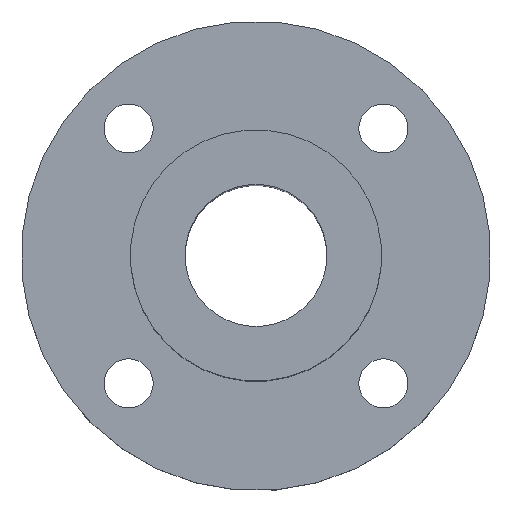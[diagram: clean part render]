
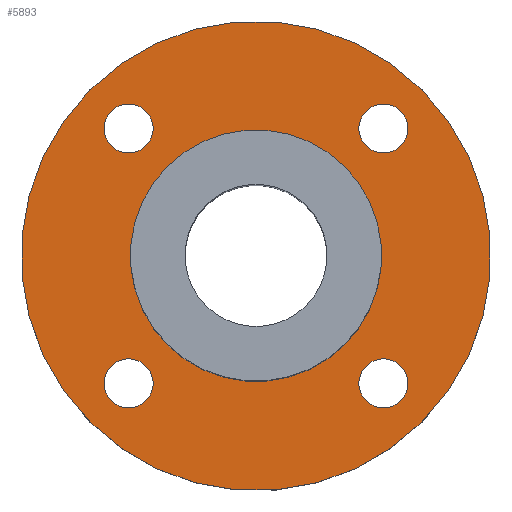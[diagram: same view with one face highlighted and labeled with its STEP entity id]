
A CAD part, top view. The second image highlights one B-rep face of the part: STEP entity #5893.
In plain terms, the highlighted planar face has unit normal (0, 0, 1).
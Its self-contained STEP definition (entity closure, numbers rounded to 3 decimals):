
#113=CIRCLE('',#6263,11.5);
#117=CIRCLE('',#6271,21.5);
#118=CIRCLE('',#6273,2.25);
#119=CIRCLE('',#6274,2.25);
#120=CIRCLE('',#6275,2.25);
#121=CIRCLE('',#6276,2.25);
#532=ORIENTED_EDGE('',*,*,#2228,.F.);
#533=ORIENTED_EDGE('',*,*,#2229,.F.);
#534=ORIENTED_EDGE('',*,*,#2230,.F.);
#535=ORIENTED_EDGE('',*,*,#2231,.F.);
#536=ORIENTED_EDGE('',*,*,#2223,.T.);
#537=ORIENTED_EDGE('',*,*,#2227,.T.);
#2223=EDGE_CURVE('',#3074,#3074,#113,.F.);
#2227=EDGE_CURVE('',#3078,#3078,#117,.T.);
#2228=EDGE_CURVE('',#3079,#3079,#118,.T.);
#2229=EDGE_CURVE('',#3080,#3080,#119,.T.);
#2230=EDGE_CURVE('',#3081,#3081,#120,.T.);
#2231=EDGE_CURVE('',#3082,#3082,#121,.T.);
#3074=VERTEX_POINT('',#9303);
#3078=VERTEX_POINT('',#9315);
#3079=VERTEX_POINT('',#9318);
#3080=VERTEX_POINT('',#9320);
#3081=VERTEX_POINT('',#9322);
#3082=VERTEX_POINT('',#9324);
#4841=EDGE_LOOP('',(#532));
#4842=EDGE_LOOP('',(#533));
#4843=EDGE_LOOP('',(#534));
#4844=EDGE_LOOP('',(#535));
#4845=EDGE_LOOP('',(#536));
#4846=EDGE_LOOP('',(#537));
#5260=FACE_BOUND('',#4841,.T.);
#5261=FACE_BOUND('',#4842,.T.);
#5262=FACE_BOUND('',#4843,.T.);
#5263=FACE_BOUND('',#4844,.T.);
#5264=FACE_BOUND('',#4845,.T.);
#5265=FACE_BOUND('',#4846,.T.);
#5621=PLANE('',#6272);
#5893=ADVANCED_FACE('',(#5260,#5261,#5262,#5263,#5264,#5265),#5621,.T.);
#6263=AXIS2_PLACEMENT_3D('',#9302,#6811,#6812);
#6271=AXIS2_PLACEMENT_3D('',#9314,#6827,#6828);
#6272=AXIS2_PLACEMENT_3D('',#9316,#6829,#6830);
#6273=AXIS2_PLACEMENT_3D('',#9317,#6831,#6832);
#6274=AXIS2_PLACEMENT_3D('',#9319,#6833,#6834);
#6275=AXIS2_PLACEMENT_3D('',#9321,#6835,#6836);
#6276=AXIS2_PLACEMENT_3D('',#9323,#6837,#6838);
#6811=DIRECTION('',(0.,0.,1.));
#6812=DIRECTION('',(0.707,-0.707,0.));
#6827=DIRECTION('',(0.,0.,1.));
#6828=DIRECTION('',(0.707,-0.707,0.));
#6829=DIRECTION('',(0.,0.,1.));
#6830=DIRECTION('',(0.707,-0.707,0.));
#6831=DIRECTION('',(0.,0.,1.));
#6832=DIRECTION('',(0.707,-0.707,0.));
#6833=DIRECTION('',(0.,0.,1.));
#6834=DIRECTION('',(0.707,-0.707,0.));
#6835=DIRECTION('',(0.,0.,1.));
#6836=DIRECTION('',(0.707,-0.707,0.));
#6837=DIRECTION('',(0.,0.,1.));
#6838=DIRECTION('',(0.707,-0.707,0.));
#9302=CARTESIAN_POINT('',(0.,0.,0.));
#9303=CARTESIAN_POINT('',(8.132,-8.132,0.));
#9314=CARTESIAN_POINT('',(0.,0.,0.));
#9315=CARTESIAN_POINT('',(15.203,-15.203,0.));
#9316=CARTESIAN_POINT('',(0.,0.,0.));
#9317=CARTESIAN_POINT('',(11.667,11.667,0.));
#9318=CARTESIAN_POINT('',(13.258,10.076,0.));
#9319=CARTESIAN_POINT('',(-11.667,11.667,0.));
#9320=CARTESIAN_POINT('',(-10.076,10.076,0.));
#9321=CARTESIAN_POINT('',(-11.667,-11.667,0.));
#9322=CARTESIAN_POINT('',(-10.076,-13.258,0.));
#9323=CARTESIAN_POINT('',(11.667,-11.667,0.));
#9324=CARTESIAN_POINT('',(13.258,-13.258,0.));
